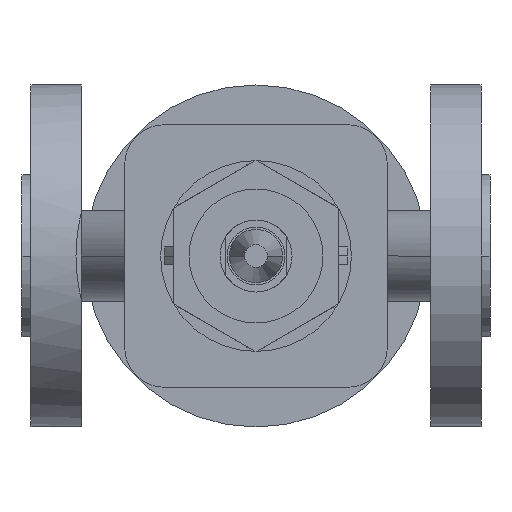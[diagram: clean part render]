
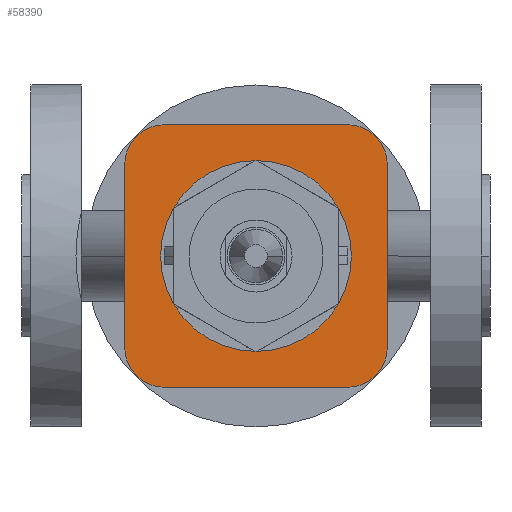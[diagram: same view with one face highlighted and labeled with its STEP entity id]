
A CAD part, front view. The second image highlights one B-rep face of the part: STEP entity #58390.
In plain terms, the highlighted planar face has unit normal (0, -1, 0).
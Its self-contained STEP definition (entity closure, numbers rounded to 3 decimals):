
#8990=CARTESIAN_POINT('',(38.5,-69.5,0.));
#9000=VERTEX_POINT('',#8990);
#9160=CARTESIAN_POINT('',(91.5,-69.5,0.));
#9170=VERTEX_POINT('',#9160);
#9200=CARTESIAN_POINT('',(65.,-69.5,0.));
#9210=DIRECTION('',(0.,-1.,0.));
#9220=DIRECTION('',(-1.,0.,0.));
#9230=AXIS2_PLACEMENT_3D('',#9200,#9210,#9220);
#9240=CIRCLE('',#9230,26.5);
#9250=EDGE_CURVE('',#9000,#9170,#9240,.T.);
#52240=CARTESIAN_POINT('',(101.456,-69.5,-25.456));
#52250=VERTEX_POINT('',#52240);
#52280=CARTESIAN_POINT('',(101.456,-69.5,12.728));
#52290=DIRECTION('',(0.,0.,1.));
#52300=VECTOR('',#52290,1.);
#52310=LINE('',#52280,#52300);
#52320=CARTESIAN_POINT('',(101.456,-69.5,25.456));
#52330=VERTEX_POINT('',#52320);
#52340=EDGE_CURVE('',#52250,#52330,#52310,.T.);
#52690=CARTESIAN_POINT('',(90.456,-69.5,-36.456));
#52700=VERTEX_POINT('',#52690);
#52750=CARTESIAN_POINT('',(90.456,-69.5,-25.456));
#52760=DIRECTION('',(0.,-1.,0.));
#52770=DIRECTION('',(1.,0.,0.));
#52780=AXIS2_PLACEMENT_3D('',#52750,#52760,#52770);
#52790=CIRCLE('',#52780,11.);
#52800=EDGE_CURVE('',#52700,#52250,#52790,.T.);
#53300=CARTESIAN_POINT('',(90.456,-69.5,25.456));
#53310=DIRECTION('',(0.,-1.,0.));
#53320=DIRECTION('',(0.,0.,1.));
#53330=AXIS2_PLACEMENT_3D('',#53300,#53310,#53320);
#53340=CIRCLE('',#53330,11.);
#53350=CARTESIAN_POINT('',(90.456,-69.5,36.456));
#53360=VERTEX_POINT('',#53350);
#53370=EDGE_CURVE('',#52330,#53360,#53340,.T.);
#54230=CARTESIAN_POINT('',(39.544,-69.5,-36.456));
#54240=VERTEX_POINT('',#54230);
#54270=CARTESIAN_POINT('',(59.353,-69.5,-36.456));
#54280=DIRECTION('',(1.,0.,0.));
#54290=VECTOR('',#54280,1.);
#54300=LINE('',#54270,#54290);
#54310=EDGE_CURVE('',#54240,#52700,#54300,.T.);
#54830=CARTESIAN_POINT('',(28.544,-69.5,-25.456));
#54840=VERTEX_POINT('',#54830);
#54890=CARTESIAN_POINT('',(39.544,-69.5,-25.456));
#54900=DIRECTION('',(0.,-1.,0.));
#54910=DIRECTION('',(0.,0.,-1.));
#54920=AXIS2_PLACEMENT_3D('',#54890,#54900,#54910);
#54930=CIRCLE('',#54920,11.);
#54940=EDGE_CURVE('',#54840,#54240,#54930,.T.);
#55470=CARTESIAN_POINT('',(39.544,-69.5,36.456));
#55480=VERTEX_POINT('',#55470);
#55530=CARTESIAN_POINT('',(39.544,-69.5,25.456));
#55540=DIRECTION('',(0.,-1.,0.));
#55550=DIRECTION('',(-1.,0.,0.));
#55560=AXIS2_PLACEMENT_3D('',#55530,#55540,#55550);
#55570=CIRCLE('',#55560,11.);
#55580=CARTESIAN_POINT('',(28.544,-69.5,25.456));
#55590=VERTEX_POINT('',#55580);
#55600=EDGE_CURVE('',#55480,#55590,#55570,.T.);
#56710=CARTESIAN_POINT('',(28.544,-69.5,-12.728));
#56720=DIRECTION('',(0.,0.,-1.));
#56730=VECTOR('',#56720,1.);
#56740=LINE('',#56710,#56730);
#56750=EDGE_CURVE('',#55590,#54840,#56740,.T.);
#57000=CARTESIAN_POINT('',(33.897,-69.5,36.456));
#57010=DIRECTION('',(-1.,0.,0.));
#57020=VECTOR('',#57010,1.);
#57030=LINE('',#57000,#57020);
#57040=EDGE_CURVE('',#53360,#55480,#57030,.T.);
#58190=CARTESIAN_POINT('',(28.25,-69.5,0.));
#58200=DIRECTION('',(0.,-1.,0.));
#58210=DIRECTION('',(-1.,0.,0.));
#58220=AXIS2_PLACEMENT_3D('',#58190,#58200,#58210);
#58230=PLANE('',#58220);
#58240=ORIENTED_EDGE('',*,*,#57040,.T.);
#58250=ORIENTED_EDGE('',*,*,#53370,.T.);
#58260=ORIENTED_EDGE('',*,*,#52340,.T.);
#58270=ORIENTED_EDGE('',*,*,#52800,.T.);
#58280=ORIENTED_EDGE('',*,*,#54310,.T.);
#58290=ORIENTED_EDGE('',*,*,#54940,.T.);
#58300=ORIENTED_EDGE('',*,*,#56750,.T.);
#58310=ORIENTED_EDGE('',*,*,#55600,.T.);
#58320=EDGE_LOOP('',(#58310,#58300,#58290,#58280,#58270,#58260,#58250,
#58240));
#58330=FACE_OUTER_BOUND('',#58320,.T.);
#58340=EDGE_CURVE('',#9170,#9000,#9240,.T.);
#58350=ORIENTED_EDGE('',*,*,#58340,.F.);
#58360=ORIENTED_EDGE('',*,*,#9250,.F.);
#58370=EDGE_LOOP('',(#58360,#58350));
#58380=FACE_BOUND('',#58370,.T.);
#58390=ADVANCED_FACE('',(#58330,#58380),#58230,.T.);
